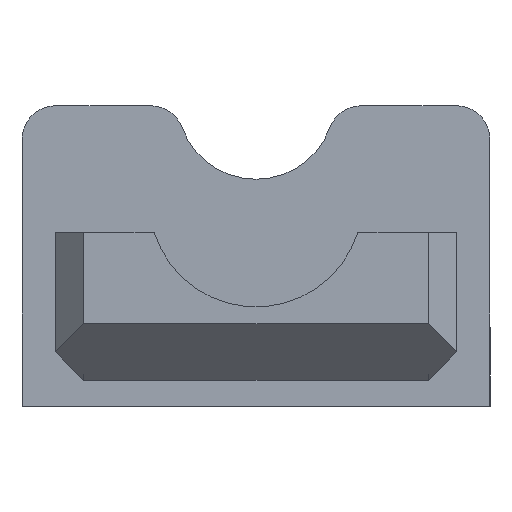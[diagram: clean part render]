
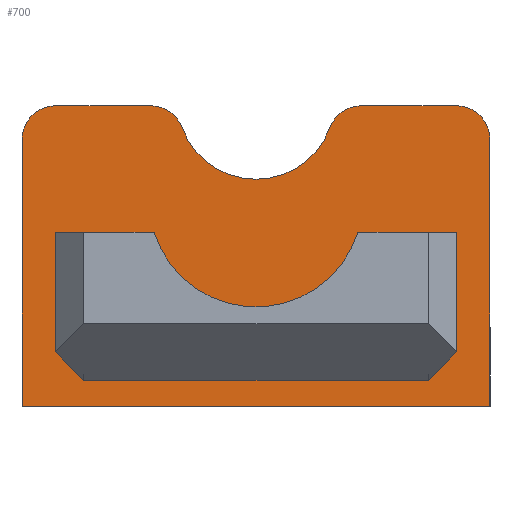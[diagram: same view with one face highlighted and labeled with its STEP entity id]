
A CAD part, left-side view. The second image highlights one B-rep face of the part: STEP entity #700.
In plain terms, the highlighted planar face has unit normal (-1, 0, 0).
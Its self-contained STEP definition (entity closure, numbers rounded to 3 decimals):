
#15=FACE_BOUND('',#100,.T.);
#25=CIRCLE('',#752,3.);
#26=CIRCLE('',#754,3.);
#27=CIRCLE('',#757,3.);
#28=CIRCLE('',#759,7.);
#29=CIRCLE('',#761,3.);
#30=CIRCLE('',#766,9.5);
#62=FACE_OUTER_BOUND('',#99,.T.);
#99=EDGE_LOOP('',(#556,#557,#558,#559,#560,#561,#562,#563,#564,#565));
#100=EDGE_LOOP('',(#566,#567,#568,#569,#570,#571));
#137=LINE('',#1022,#221);
#158=LINE('',#1086,#242);
#163=LINE('',#1103,#247);
#168=LINE('',#1113,#252);
#170=LINE('',#1117,#254);
#173=LINE('',#1123,#257);
#174=LINE('',#1124,#258);
#175=LINE('',#1125,#259);
#176=LINE('',#1127,#260);
#177=LINE('',#1130,#261);
#221=VECTOR('',#816,10.);
#242=VECTOR('',#881,10.);
#247=VECTOR('',#900,10.);
#252=VECTOR('',#907,10.);
#254=VECTOR('',#911,10.);
#257=VECTOR('',#916,10.);
#258=VECTOR('',#917,10.);
#259=VECTOR('',#918,10.);
#260=VECTOR('',#919,10.);
#261=VECTOR('',#922,10.);
#301=VERTEX_POINT('',#1019);
#302=VERTEX_POINT('',#1021);
#320=VERTEX_POINT('',#1075);
#321=VERTEX_POINT('',#1076);
#322=VERTEX_POINT('',#1081);
#323=VERTEX_POINT('',#1085);
#324=VERTEX_POINT('',#1089);
#325=VERTEX_POINT('',#1093);
#326=VERTEX_POINT('',#1097);
#327=VERTEX_POINT('',#1101);
#328=VERTEX_POINT('',#1102);
#332=VERTEX_POINT('',#1112);
#333=VERTEX_POINT('',#1116);
#335=VERTEX_POINT('',#1122);
#336=VERTEX_POINT('',#1126);
#337=VERTEX_POINT('',#1128);
#371=EDGE_CURVE('',#302,#301,#137,.T.);
#398=EDGE_CURVE('',#320,#321,#25,.T.);
#402=EDGE_CURVE('',#322,#301,#26,.T.);
#403=EDGE_CURVE('',#323,#321,#158,.T.);
#405=EDGE_CURVE('',#323,#324,#27,.T.);
#407=EDGE_CURVE('',#325,#324,#28,.T.);
#409=EDGE_CURVE('',#325,#326,#29,.T.);
#411=EDGE_CURVE('',#327,#328,#163,.T.);
#416=EDGE_CURVE('',#332,#327,#168,.T.);
#418=EDGE_CURVE('',#333,#332,#170,.T.);
#421=EDGE_CURVE('',#320,#335,#173,.T.);
#422=EDGE_CURVE('',#302,#335,#174,.F.);
#423=EDGE_CURVE('',#322,#326,#175,.T.);
#424=EDGE_CURVE('',#328,#336,#176,.T.);
#425=EDGE_CURVE('',#336,#337,#30,.T.);
#426=EDGE_CURVE('',#337,#333,#177,.T.);
#556=ORIENTED_EDGE('',*,*,#398,.F.);
#557=ORIENTED_EDGE('',*,*,#421,.T.);
#558=ORIENTED_EDGE('',*,*,#422,.F.);
#559=ORIENTED_EDGE('',*,*,#371,.T.);
#560=ORIENTED_EDGE('',*,*,#402,.F.);
#561=ORIENTED_EDGE('',*,*,#423,.T.);
#562=ORIENTED_EDGE('',*,*,#409,.F.);
#563=ORIENTED_EDGE('',*,*,#407,.T.);
#564=ORIENTED_EDGE('',*,*,#405,.F.);
#565=ORIENTED_EDGE('',*,*,#403,.T.);
#566=ORIENTED_EDGE('',*,*,#416,.T.);
#567=ORIENTED_EDGE('',*,*,#411,.T.);
#568=ORIENTED_EDGE('',*,*,#424,.T.);
#569=ORIENTED_EDGE('',*,*,#425,.T.);
#570=ORIENTED_EDGE('',*,*,#426,.T.);
#571=ORIENTED_EDGE('',*,*,#418,.T.);
#664=PLANE('',#765);
#700=ADVANCED_FACE('',(#62,#15),#664,.F.);
#752=AXIS2_PLACEMENT_3D('',#1077,#870,#871);
#754=AXIS2_PLACEMENT_3D('',#1083,#877,#878);
#757=AXIS2_PLACEMENT_3D('',#1090,#885,#886);
#759=AXIS2_PLACEMENT_3D('',#1094,#890,#891);
#761=AXIS2_PLACEMENT_3D('',#1098,#895,#896);
#765=AXIS2_PLACEMENT_3D('',#1121,#914,#915);
#766=AXIS2_PLACEMENT_3D('',#1129,#920,#921);
#816=DIRECTION('',(0.,0.,1.));
#870=DIRECTION('center_axis',(1.,0.,0.));
#871=DIRECTION('ref_axis',(0.,0.707,0.707));
#877=DIRECTION('center_axis',(1.,0.,0.));
#878=DIRECTION('ref_axis',(0.,-0.707,0.707));
#881=DIRECTION('',(0.,1.,0.));
#885=DIRECTION('center_axis',(1.,0.,0.));
#886=DIRECTION('ref_axis',(0.,-0.572,0.82));
#890=DIRECTION('center_axis',(1.,0.,0.));
#891=DIRECTION('ref_axis',(0.,1.,0.));
#895=DIRECTION('center_axis',(1.,0.,0.));
#896=DIRECTION('ref_axis',(0.,0.572,0.82));
#900=DIRECTION('',(0.,0.,1.));
#907=DIRECTION('',(0.,1.,0.));
#911=DIRECTION('',(0.,0.,-1.));
#914=DIRECTION('center_axis',(1.,0.,0.));
#915=DIRECTION('ref_axis',(0.,1.,0.));
#916=DIRECTION('',(0.,0.,-1.));
#917=DIRECTION('',(0.,-1.,0.));
#918=DIRECTION('',(0.,1.,0.));
#919=DIRECTION('',(0.,-1.,0.));
#920=DIRECTION('center_axis',(-1.,0.,0.));
#921=DIRECTION('ref_axis',(0.,1.,0.));
#922=DIRECTION('',(0.,-1.,0.));
#1019=CARTESIAN_POINT('',(96.15,-20.8,-180.76));
#1021=CARTESIAN_POINT('',(96.15,-20.8,-204.478));
#1022=CARTESIAN_POINT('',(96.15,-20.8,-183.851));
#1075=CARTESIAN_POINT('',(96.15,20.8,-180.76));
#1076=CARTESIAN_POINT('',(96.15,17.8,-177.76));
#1077=CARTESIAN_POINT('Origin',(96.15,17.8,-180.76));
#1081=CARTESIAN_POINT('',(96.15,-17.8,-177.76));
#1083=CARTESIAN_POINT('Origin',(96.15,-17.8,-180.76));
#1085=CARTESIAN_POINT('',(96.15,9.382,-177.76));
#1086=CARTESIAN_POINT('',(96.15,-20.8,-177.76));
#1089=CARTESIAN_POINT('',(96.15,6.567,-179.722));
#1090=CARTESIAN_POINT('Origin',(96.15,9.382,-180.76));
#1093=CARTESIAN_POINT('',(96.15,-6.567,-179.722));
#1094=CARTESIAN_POINT('Origin',(96.15,0.,-177.298));
#1097=CARTESIAN_POINT('',(96.15,-9.382,-177.76));
#1098=CARTESIAN_POINT('Origin',(96.15,-9.382,-180.76));
#1101=CARTESIAN_POINT('',(96.15,15.3,-202.15));
#1102=CARTESIAN_POINT('',(96.15,15.3,-189.));
#1103=CARTESIAN_POINT('',(96.15,15.3,-196.046));
#1112=CARTESIAN_POINT('',(96.15,-15.3,-202.15));
#1113=CARTESIAN_POINT('',(96.15,0.,-202.15));
#1116=CARTESIAN_POINT('',(96.15,-15.3,-189.));
#1117=CARTESIAN_POINT('',(96.15,-15.3,-189.471));
#1121=CARTESIAN_POINT('Origin',(96.15,-15.3,-190.));
#1122=CARTESIAN_POINT('',(96.15,20.8,-204.478));
#1123=CARTESIAN_POINT('',(96.15,20.8,-196.033));
#1124=CARTESIAN_POINT('',(96.15,-18.05,-204.478));
#1125=CARTESIAN_POINT('',(96.15,-20.8,-177.76));
#1126=CARTESIAN_POINT('',(96.15,9.062,-189.));
#1127=CARTESIAN_POINT('',(96.15,0.,-189.));
#1128=CARTESIAN_POINT('',(96.15,-9.062,-189.));
#1129=CARTESIAN_POINT('Origin',(96.15,0.,-186.15));
#1130=CARTESIAN_POINT('',(96.15,0.,-189.));
